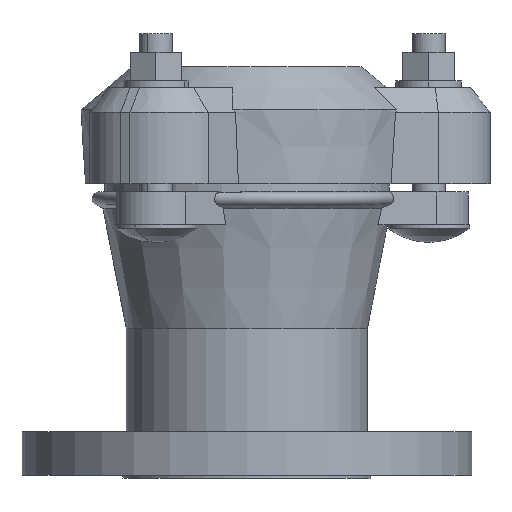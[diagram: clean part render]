
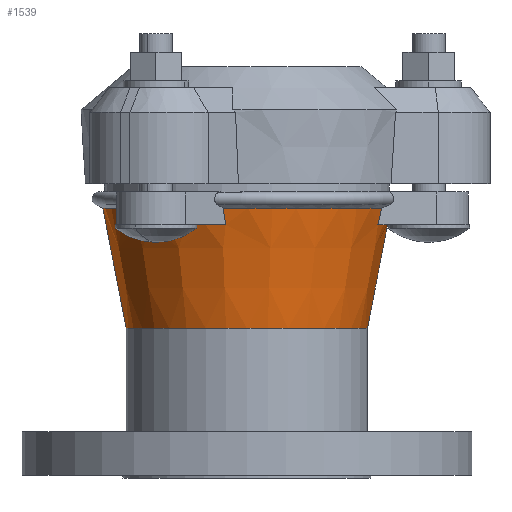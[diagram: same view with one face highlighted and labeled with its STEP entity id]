
A CAD part, left-side view. The second image highlights one B-rep face of the part: STEP entity #1539.
In plain terms, the highlighted conical face has half-angle 10.993 degrees and reference radius 48.531 mm.
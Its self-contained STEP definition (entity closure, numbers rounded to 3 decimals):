
#323=CARTESIAN_POINT('',(0.,0.,82.071));
#324=DIRECTION('',(0.,0.,1.));
#325=DIRECTION('',(0.,1.,0.));
#326=AXIS2_PLACEMENT_3D('',#323,#324,#325);
#354=CARTESIAN_POINT('',(0.,0.,82.071));
#355=DIRECTION('',(0.,0.,1.));
#356=DIRECTION('',(-0.986,0.165,0.));
#357=AXIS2_PLACEMENT_3D('',#354,#355,#356);
#429=DIRECTION('',(0.,0.191,0.982));
#430=VECTOR('',#429,44.894);
#431=CARTESIAN_POINT('',(0.,44.25,38.));
#432=LINE('',#431,#430);
#438=DIRECTION('',(0.,-0.191,0.982));
#439=VECTOR('',#438,38.71);
#440=CARTESIAN_POINT('',(0.,-44.25,38.));
#441=LINE('',#440,#439);
#526=CARTESIAN_POINT('',(0.,0.,76.));
#527=DIRECTION('',(0.,0.,1.));
#528=DIRECTION('',(-0.625,0.781,0.));
#529=AXIS2_PLACEMENT_3D('',#526,#527,#528);
#531=CARTESIAN_POINT('',(-52.087,8.713,82.071));
#532=CARTESIAN_POINT('',(-51.97,8.607,81.384));
#533=CARTESIAN_POINT('',(-51.736,8.397,80.02));
#534=CARTESIAN_POINT('',(-51.388,8.083,77.997));
#535=CARTESIAN_POINT('',(-51.158,7.876,76.663));
#536=CARTESIAN_POINT('',(-51.043,7.773,76.));
#538=CARTESIAN_POINT('',(-18.79,-48.091,76.));
#539=CARTESIAN_POINT('',(-18.758,-48.242,76.663));
#540=CARTESIAN_POINT('',(-18.694,-48.545,77.996));
#541=CARTESIAN_POINT('',(-18.596,-49.003,80.02));
#542=CARTESIAN_POINT('',(-18.531,-49.311,81.384));
#543=CARTESIAN_POINT('',(-18.498,-49.466,82.071));
#545=CARTESIAN_POINT('',(0.,0.,76.));
#546=DIRECTION('',(0.,0.,1.));
#547=DIRECTION('',(-0.364,-0.931,0.));
#548=AXIS2_PLACEMENT_3D('',#545,#546,#547);
#550=CARTESIAN_POINT('',(0.,0.,38.));
#551=DIRECTION('',(0.,0.,1.));
#552=DIRECTION('',(0.,1.,0.));
#553=AXIS2_PLACEMENT_3D('',#550,#551,#552);
#555=CARTESIAN_POINT('',(-32.253,40.318,76.));
#556=CARTESIAN_POINT('',(-32.4,40.366,76.663));
#557=CARTESIAN_POINT('',(-32.694,40.462,77.996));
#558=CARTESIAN_POINT('',(-33.14,40.606,80.02));
#559=CARTESIAN_POINT('',(-33.439,40.704,81.384));
#560=CARTESIAN_POINT('',(-33.589,40.752,82.071));
#797=CARTESIAN_POINT('',(0.,44.25,38.));
#799=VERTEX_POINT('',#797);
#800=CARTESIAN_POINT('',(0.,52.811,82.071));
#801=VERTEX_POINT('',#800);
#815=CARTESIAN_POINT('',(0.,-44.25,38.));
#817=VERTEX_POINT('',#815);
#832=CARTESIAN_POINT('',(-18.79,-48.091,76.));
#833=CARTESIAN_POINT('',(0.,-51.632,76.));
#834=VERTEX_POINT('',#832);
#835=VERTEX_POINT('',#833);
#836=VERTEX_POINT('',#543);
#951=CARTESIAN_POINT('',(-32.253,40.318,76.));
#952=CARTESIAN_POINT('',(-51.043,7.773,76.));
#953=VERTEX_POINT('',#951);
#954=VERTEX_POINT('',#952);
#955=VERTEX_POINT('',#560);
#956=VERTEX_POINT('',#531);
#1516=CARTESIAN_POINT('',(0.,0.,60.035));
#1517=DIRECTION('',(0.,0.,1.));
#1518=DIRECTION('',(0.,1.,0.));
#1519=AXIS2_PLACEMENT_3D('',#1516,#1517,#1518);
#1520=CONICAL_SURFACE('',#1519,48.531,10.993);
#1522=ORIENTED_EDGE('',*,*,#1521,.T.);
#1524=ORIENTED_EDGE('',*,*,#1523,.F.);
#1525=ORIENTED_EDGE('',*,*,#1294,.T.);
#1527=ORIENTED_EDGE('',*,*,#1526,.F.);
#1529=ORIENTED_EDGE('',*,*,#1528,.T.);
#1530=ORIENTED_EDGE('',*,*,#1409,.F.);
#1532=ORIENTED_EDGE('',*,*,#1531,.F.);
#1533=ORIENTED_EDGE('',*,*,#1405,.T.);
#1534=ORIENTED_EDGE('',*,*,#1274,.T.);
#1536=ORIENTED_EDGE('',*,*,#1535,.F.);
#1537=EDGE_LOOP('',(#1522,#1524,#1525,#1527,#1529,#1530,#1532,#1533,#1534,
#1536));
#1538=FACE_OUTER_BOUND('',#1537,.F.);
#1539=ADVANCED_FACE('',(#1538),#1520,.T.);
#327=CIRCLE('',#326,52.811);
#358=CIRCLE('',#357,52.811);
#530=CIRCLE('',#529,51.632);
#537=B_SPLINE_CURVE_WITH_KNOTS('',3,(#531,#532,#533,#534,#535,#536),
.UNSPECIFIED.,.F.,.F.,(4,1,1,4),(0.,0.333,0.667,1.),
.UNSPECIFIED.);
#544=B_SPLINE_CURVE_WITH_KNOTS('',3,(#538,#539,#540,#541,#542,#543),
.UNSPECIFIED.,.F.,.F.,(4,1,1,4),(0.,0.333,0.667,1.),
.UNSPECIFIED.);
#549=CIRCLE('',#548,51.632);
#554=CIRCLE('',#553,44.25);
#561=B_SPLINE_CURVE_WITH_KNOTS('',3,(#555,#556,#557,#558,#559,#560),
.UNSPECIFIED.,.F.,.F.,(4,1,1,4),(0.,0.333,0.667,1.),
.UNSPECIFIED.);
#1274=EDGE_CURVE('',#801,#955,#327,.T.);
#1294=EDGE_CURVE('',#956,#836,#358,.T.);
#1405=EDGE_CURVE('',#799,#801,#432,.T.);
#1409=EDGE_CURVE('',#817,#835,#441,.T.);
#1521=EDGE_CURVE('',#953,#954,#530,.T.);
#1523=EDGE_CURVE('',#956,#954,#537,.T.);
#1526=EDGE_CURVE('',#834,#836,#544,.T.);
#1528=EDGE_CURVE('',#834,#835,#549,.T.);
#1531=EDGE_CURVE('',#799,#817,#554,.T.);
#1535=EDGE_CURVE('',#953,#955,#561,.T.);
